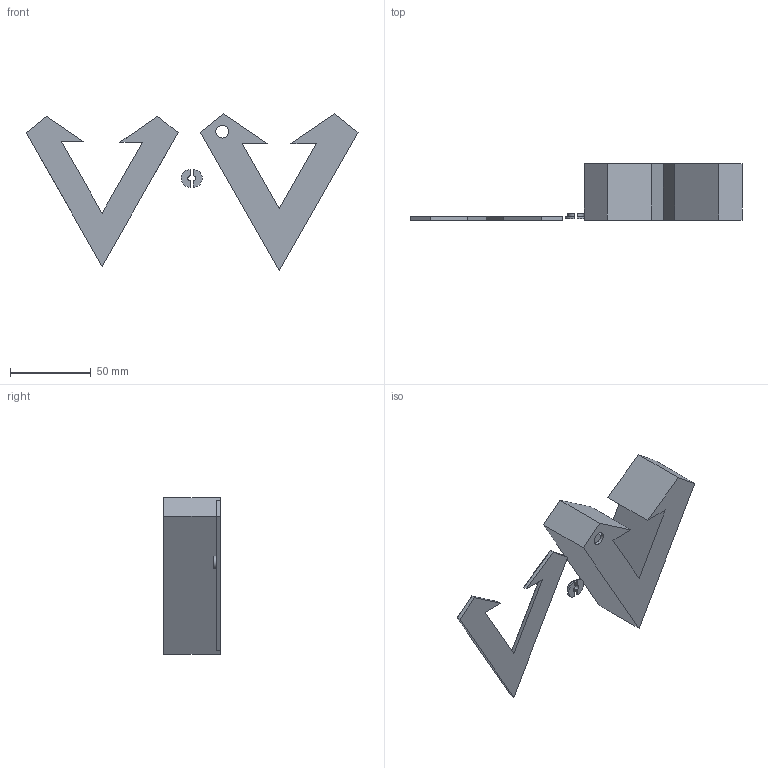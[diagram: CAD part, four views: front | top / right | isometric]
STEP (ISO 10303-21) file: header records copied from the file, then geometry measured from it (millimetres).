
FILE_DESCRIPTION(/* description */ (''),/* implementation_level */ '2;1');
FILE_NAME(/* name */ 'apex mk1 v2.step',/* time_stamp */ '2025-11-17T06:27:23Z',/* author */ (''),/* organization */ (''),/* preprocessor_version */ 'ST-DEVELOPER v20.1',/* originating_system */ 'Autodesk Translation Framework v14.21.0.0',/* authorisation */ '');
FILE_SCHEMA (('AUTOMOTIVE_DESIGN { 1 0 10303 214 3 1 1 }'));
Length unit declared in the file: millimetre
Products named in the file (1): apex mk1
Bounding box: 206.22 x 35 x 97.32 mm (x, y, z)
Volume: 36477.3 mm3; surface area: 42389.8 mm2
Topology: 4 solids, 4 shells, 74 faces, 189 edges, 126 vertices
Faces by surface type: plane 67, cylinder 7
Full cylindrical faces by diameter (mm): 8 x1
Entity records: 2248 total; most frequent: CARTESIAN_POINT 390, ORIENTED_EDGE 378, DIRECTION 353, EDGE_CURVE 189, LINE 175, VECTOR 175, VERTEX_POINT 126, AXIS2_PLACEMENT_3D 89
